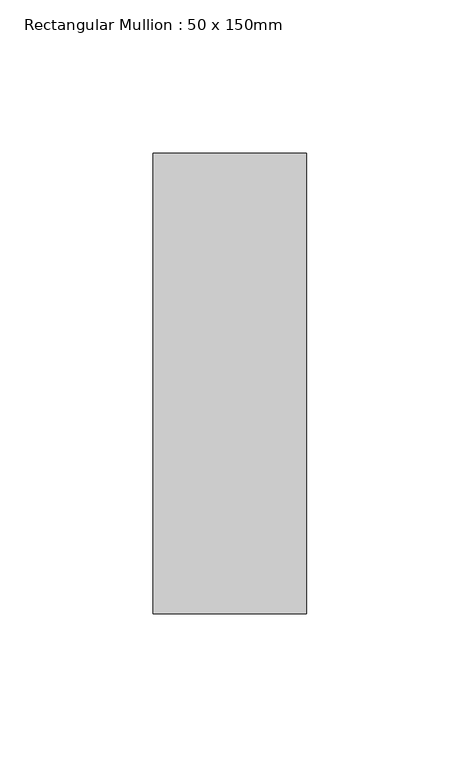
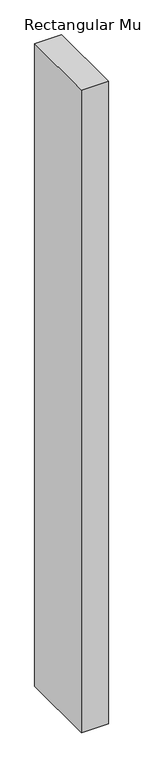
"""IFC4 building model written with IfcOpenShell, lengths in millimetres: member geometry, Rectangular Mullion : 50 x 150mm."""

from ifc_helpers import new_model, si_unit, frame, origin, place, context, project, spatial, polyline, outline, extrude, source, transform, mapped, element, save


def rectangular_mullion_50_x_150mm_4202f3ec(model_context):
    return source(origin(), model_context, "Body", "SweptSolid", [
        extrude(outline(polyline([(0.0, 75.0), (0.0, -75.0), (-50.0, -75.0), (-50.0, 75.0), (0.0, 75.0)])), frame((0.0, 0.0, -1261.6666668), z_axis=(0.0, 0.0, 1.0), x_axis=(1.0, 0.0, 0.0)), (0.0, 0.0, 1.0), 1261.6666668),
    ])


if __name__ == "__main__":
    model = new_model("IFC4")
    model_context = context("Model", 3, world=origin())
    ifc_project = project(units=[si_unit("LENGTHUNIT", "METRE", prefix="MILLI")], contexts=[model_context])
    site = spatial("IfcSite", under=ifc_project)
    building = spatial("IfcBuilding", under=site)
    placement = place(None, origin())
    rectangular_mullion_50_x_150mm_shape = rectangular_mullion_50_x_150mm_4202f3ec(model_context)
    element("IfcMember", 1, ObjectType="Rectangular Mullion : 50 x 150mm", at=placement, inside=building, context=model_context, shape_type="MappedRepresentation", body=[
        mapped(rectangular_mullion_50_x_150mm_shape, transform((0.0, 0.0, 0.0), x_axis=(1.0, 0.0, 0.0), y_axis=(0.0, 1.0, 0.0), z_axis=(0.0, 0.0, 1.0))),
    ])
    save(model, "model.ifc")
